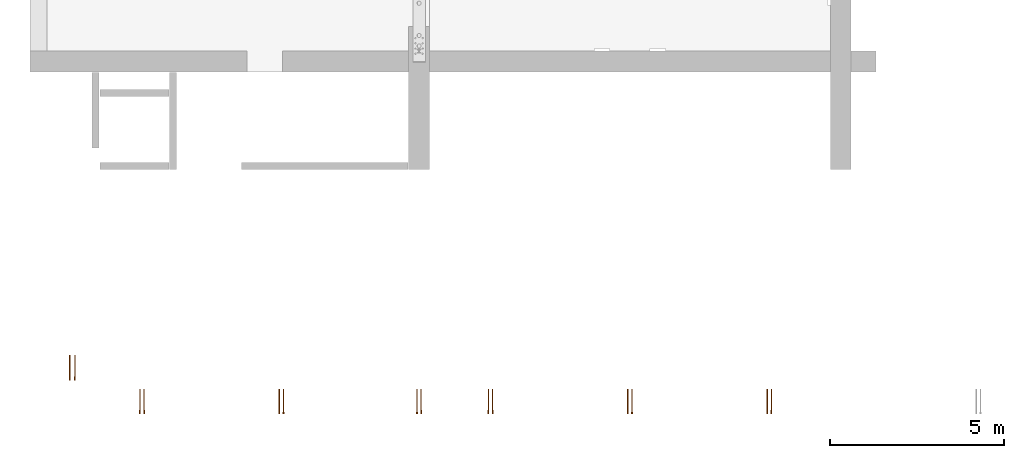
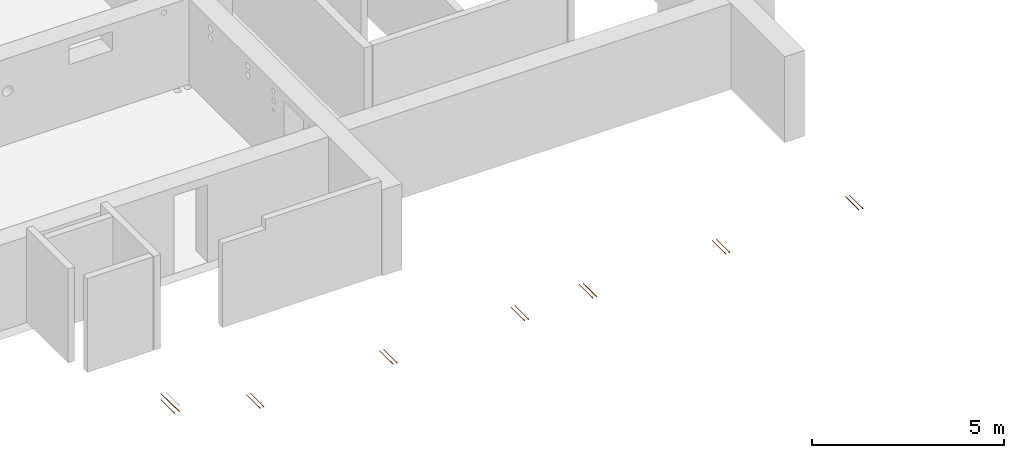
# One storey, part 7 of 8: 15 proxies.
"""IFC2X3 building model written with IfcOpenShell, lengths in millimetres."""

from ifc_helpers import new_model, entity, si_unit, converted_unit, derived_unit, direction, frame, frame_2d, origin, place, context, subcontext, project, spatial, circle, extrude, faceted_brep, source, transform, mapped, type_object, type_shapes, element, save


model = new_model("IFC2X3")

# Units and contexts
model_context = context("Model", 3, precision=0.01, world=origin(), true_north=direction((6.12303176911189e-17, 1.0)))
body_context = subcontext(model_context, "Body", "Model", "MODEL_VIEW")
ifc_project = project(units=[si_unit("LENGTHUNIT", "METRE", prefix="MILLI"), si_unit("AREAUNIT", "SQUARE_METRE"), si_unit("VOLUMEUNIT", "CUBIC_METRE"), converted_unit("PLANEANGLEUNIT", "DEGREE", entity("IfcRatioMeasure", 0.0174532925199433), si_unit("PLANEANGLEUNIT", "RADIAN"), dimensions=[0, 0, 0, 0, 0, 0, 0]), si_unit("MASSUNIT", "GRAM", prefix="KILO"), derived_unit("MASSDENSITYUNIT", [(si_unit("MASSUNIT", "GRAM", prefix="KILO"), 1), (si_unit("LENGTHUNIT", "METRE"), -3)]), si_unit("TIMEUNIT", "SECOND"), si_unit("FREQUENCYUNIT", "HERTZ"), si_unit("THERMODYNAMICTEMPERATUREUNIT", "DEGREE_CELSIUS"), derived_unit("THERMALTRANSMITTANCEUNIT", [(si_unit("MASSUNIT", "GRAM", prefix="KILO"), 1), (si_unit("THERMODYNAMICTEMPERATUREUNIT", "KELVIN"), -1), (si_unit("TIMEUNIT", "SECOND"), -3)]), derived_unit("VOLUMETRICFLOWRATEUNIT", [(si_unit("LENGTHUNIT", "METRE"), 3), (si_unit("TIMEUNIT", "SECOND"), -1)]), si_unit("ELECTRICCURRENTUNIT", "AMPERE"), si_unit("ELECTRICVOLTAGEUNIT", "VOLT"), si_unit("POWERUNIT", "WATT"), si_unit("FORCEUNIT", "NEWTON", prefix="KILO"), si_unit("ILLUMINANCEUNIT", "LUX"), si_unit("LUMINOUSFLUXUNIT", "LUMEN"), si_unit("LUMINOUSINTENSITYUNIT", "CANDELA"), derived_unit("USERDEFINED", [(si_unit("MASSUNIT", "GRAM", prefix="KILO"), -1), (si_unit("LENGTHUNIT", "METRE"), -2), (si_unit("TIMEUNIT", "SECOND"), 3), (si_unit("LUMINOUSFLUXUNIT", "LUMEN"), 1)]), derived_unit("LINEARVELOCITYUNIT", [(si_unit("LENGTHUNIT", "METRE"), 1), (si_unit("TIMEUNIT", "SECOND"), -1)]), si_unit("PRESSUREUNIT", "PASCAL"), derived_unit("USERDEFINED", [(si_unit("LENGTHUNIT", "METRE"), -2), (si_unit("MASSUNIT", "GRAM", prefix="KILO"), 1), (si_unit("TIMEUNIT", "SECOND"), -2)])], contexts=[model_context])

# Site, building, storey
site_placement = place(None, origin())
site = spatial("IfcSite", under=ifc_project, at=site_placement, Name="Default", CompositionType="ELEMENT")
building_placement = place(site_placement, origin())
building = spatial("IfcBuilding", under=site, at=building_placement, Name="niet gebruiken", CompositionType="ELEMENT")
storey_placement = place(building_placement, frame((0.0, 0.0, 3000.0)))
storey = spatial("IfcBuildingStorey", under=building, at=storey_placement, Name="00a eerste tussenverdieping", CompositionType="ELEMENT", Elevation=3000.00000000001)

# Proxies
building_element_proxy_type_1 = type_object("IfcBuildingElementProxyType", Name="Ø20/M24x705", PredefinedType="NOTDEFINED")
shared_shape_1 = source(origin(), body_context, "Body", "SolidModel", [
    extrude(circle(Radius=10.0, at=frame_2d((0.0, -1.61554457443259e-14), x_axis=(1.0, 0.0))), frame((34.9769027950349, 0.0, -705.0)), (0.0, 0.0, 1.0), 615.0),
    extrude(circle(Radius=10.0, at=frame_2d((0.0, -1.61554457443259e-14), x_axis=(1.0, 0.0))), frame((34.9769027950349, 0.0, -705.0)), (0.0, 0.0, 1.0), 615.0),
    faceted_brep([(29.3200485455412, 13.6568542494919, 0.0), (32.1484756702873, 14.8284271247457, 0.0), (34.9769027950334, 16.0, 0.0), (34.9769027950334, 16.0, -38.0), (32.1484756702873, 14.8284271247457, -38.0), (29.3200485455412, 13.6568542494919, -38.0), (26.4916214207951, 12.4852813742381, -38.0), (23.663194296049, 11.3137084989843, -38.0), (23.663194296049, 11.3137084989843, 0.0), (26.4916214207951, 12.4852813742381, 0.0), (49.805329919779, 2.82842712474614, 0.0), (50.9769027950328, 0.0, 0.0), (50.9769027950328, 0.0, -38.0), (50.0199937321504, 2.31018283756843, -38.0), (49.7680552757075, 2.91841607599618, -38.0), (48.6337570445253, 5.65685424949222, -38.0), (48.5592077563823, 5.83683215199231, -38.0), (47.4621841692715, 8.48528137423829, -38.0), (46.2906112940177, 11.3137084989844, -38.0), (46.2906112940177, 11.3137084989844, 0.0), (47.4621841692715, 8.48528137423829, 0.0), (48.6337570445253, 5.65685424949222, 0.0), (21.3200485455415, 5.65685424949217, 0.0), (22.4916214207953, 8.48528137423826, 0.0), (22.4916214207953, 8.48528137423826, -38.0), (22.2769576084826, 7.96703708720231, -38.0), (21.3200485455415, 5.65685424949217, -38.0), (20.8907209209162, 4.62036567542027, -38.0), (20.1484756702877, 2.82842712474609, -38.0), (18.976902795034, 0.0, -38.0), (18.976902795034, 0.0, 0.0), (20.1484756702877, 2.82842712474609, 0.0), (40.6337570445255, 13.6568542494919, 0.0), (43.4621841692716, 12.4852813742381, 0.0), (43.4621841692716, 12.4852813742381, -38.0), (40.6337570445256, 13.6568542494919, -38.0), (37.8053299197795, 14.8284271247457, -38.0), (37.8053299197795, 14.8284271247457, 0.0), (49.063084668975, -4.62036567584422, 0.0), (47.6768479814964, -7.96703708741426, 0.0), (46.2906112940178, -11.3137084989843, 0.0), (46.2906112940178, -11.3137084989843, -38.0), (47.4621841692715, -8.48528137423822, -38.0), (48.6337570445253, -5.65685424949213, -38.0), (49.8053299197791, -2.82842712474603, -38.0), (29.3200485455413, -13.6568542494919, 0.0), (26.4916214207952, -12.4852813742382, 0.0), (23.6631942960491, -11.3137084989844, 0.0), (23.6631942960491, -11.3137084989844, -38.0), (26.4916214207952, -12.4852813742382, -38.0), (29.3200485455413, -13.6568542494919, -38.0), (32.1484756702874, -14.8284271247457, -38.0), (34.9769027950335, -16.0, -38.0), (34.9769027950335, -16.0, 0.0), (32.1484756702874, -14.8284271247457, 0.0), (37.8053299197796, -14.8284271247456, -38.0), (40.6337570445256, -13.6568542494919, -38.0), (43.4621841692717, -12.4852813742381, -38.0), (43.4621841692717, -12.4852813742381, 0.0), (40.6337570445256, -13.6568542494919, 0.0), (37.8053299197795, -14.8284271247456, 0.0), (22.4916214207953, -8.48528137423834, 0.0), (21.3200485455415, -5.65685424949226, 0.0), (20.1484756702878, -2.82842712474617, 0.0), (19.9338118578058, -2.31018283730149, -38.0), (20.1857498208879, -2.91841488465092, -38.0), (21.3200485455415, -5.65685424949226, -38.0), (22.4916214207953, -8.48528137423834, -38.0), (25.7845146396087, 9.19238815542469, -52.0), (24.8628969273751, 6.96740617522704, -52.0), (23.9412792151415, 4.7424241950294, -52.0), (22.9590910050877, 2.3712120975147, -52.0), (21.976902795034, 0.0, -52.0), (44.1692909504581, 9.19238815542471, -52.0), (47.9769027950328, 0.0, -52.0), (46.994714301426, 2.37121278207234, -52.0), (46.0730968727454, 4.59619407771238, -52.0), (45.1211939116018, 6.89429111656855, -52.0), (34.9769027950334, 13.0, -52.0), (32.6788057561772, 12.0480970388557, -52.0), (30.380708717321, 11.096194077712, -52.0), (28.0826116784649, 10.1442911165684, -52.0), (37.2749998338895, 12.0480970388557, -52.0), (41.8711939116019, 10.1442911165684, -52.0), (39.5730968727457, 11.0961940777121, -52.0), (44.1692909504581, -9.19238815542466, -52.0), (45.0909086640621, -6.96740617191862, -52.0), (45.3722781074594, -6.28812024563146, -52.0), (46.0125263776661, -4.74242418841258, -52.0), (46.5752652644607, -3.38385233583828, -52.0), (46.9947145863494, -2.37121209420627, -52.0), (28.0826116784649, -10.1442911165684, -52.0), (30.3807087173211, -11.0961940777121, -52.0), (32.6788057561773, -12.0480970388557, -52.0), (34.9769027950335, -13.0, -52.0), (25.7845146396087, -9.19238815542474, -52.0), (37.2749998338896, -12.0480970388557, -52.0), (39.5730968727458, -11.096194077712, -52.0), (41.871193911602, -10.1442911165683, -52.0), (22.9288057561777, -2.29809703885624, -52.0), (23.8807087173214, -4.59619407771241, -52.0), (24.8326116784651, -6.89429111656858, -52.0), (32.6788057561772, 12.0480970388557, -90.0), (30.380708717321, 11.096194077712, -90.0), (28.0826116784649, 10.1442911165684, -90.0), (25.7845146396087, 9.19238815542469, -90.0), (34.9769027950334, 13.0, -90.0), (47.9769027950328, 0.0, -90.0), (47.2760840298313, 1.691926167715, -90.0), (46.0730968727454, 4.59619407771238, -90.0), (45.1211939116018, 6.89429111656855, -90.0), (44.1692909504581, 9.19238815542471, -90.0), (23.3785403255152, 3.38385233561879, -90.0), (21.976902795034, 0.0, -90.0), (24.5815274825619, 6.28812024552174, -90.0), (41.8711939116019, 10.1442911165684, -90.0), (39.5730968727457, 11.0961940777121, -90.0), (37.2749998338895, 12.0480970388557, -90.0), (46.0730968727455, -4.5961940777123, -90.0), (47.0249998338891, -2.29809703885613, -90.0), (44.1692909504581, -9.19238815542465, -90.0), (45.1211939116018, -6.89429111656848, -90.0), (25.7845146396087, -9.19238815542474, -90.0), (28.0826116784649, -10.1442911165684, -90.0), (30.3807087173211, -11.0961940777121, -90.0), (32.6788057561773, -12.0480970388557, -90.0), (34.9769027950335, -13.0, -90.0), (37.2749998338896, -12.0480970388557, -90.0), (39.5730968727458, -11.096194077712, -90.0), (41.871193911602, -10.1442911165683, -90.0), (22.6777215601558, -1.6919261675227, -90.0), (23.8807087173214, -4.59619407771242, -90.0), (24.8326116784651, -6.89429111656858, -90.0), (34.9769027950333, 0.0, -90.0), (34.9769027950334, 0.0, -38.0), (47.9769027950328, 0.0, -38.0), (47.2760840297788, 1.69192616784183, -38.0), (46.0730968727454, 4.59619407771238, -38.0), (45.1211939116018, 6.89429111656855, -38.0), (44.1692909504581, 9.19238815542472, -38.0), (41.8711939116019, 10.1442911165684, -38.0), (39.5730968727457, 11.0961940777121, -38.0), (37.2749998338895, 12.0480970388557, -38.0), (34.9769027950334, 13.0, -38.0), (32.6788057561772, 12.0480970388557, -38.0), (30.380708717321, 11.096194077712, -38.0), (28.0826116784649, 10.1442911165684, -38.0), (25.7845146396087, 9.19238815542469, -38.0), (24.5815274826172, 6.28812024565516, -38.0), (23.3785403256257, 3.38385233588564, -38.0), (21.976902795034, 0.0, -38.0), (22.6777215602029, -1.69192616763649, -38.0), (47.0249998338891, -2.29809703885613, -38.0), (46.0730968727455, -4.59619407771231, -38.0), (45.1211939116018, -6.89429111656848, -38.0), (44.1692909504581, -9.19238815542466, -38.0), (41.871193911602, -10.1442911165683, -38.0), (39.5730968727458, -11.096194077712, -38.0), (37.2749998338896, -12.0480970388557, -38.0), (34.9769027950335, -13.0, -38.0), (23.8807087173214, -4.59619407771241, -38.0), (24.8326116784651, -6.89429111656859, -38.0), (25.7845146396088, -9.19238815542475, -38.0), (28.0826116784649, -10.1442911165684, -38.0), (30.3807087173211, -11.0961940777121, -38.0), (32.6788057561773, -12.0480970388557, -38.0), (32.6788057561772, 12.0480970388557, 0.0), (30.380708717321, 11.096194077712, 0.0), (28.0826116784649, 10.1442911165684, 0.0), (25.7845146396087, 9.19238815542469, 0.0), (34.9769027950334, 13.0, 0.0), (47.9769027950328, 0.0, 0.0), (47.0249998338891, 2.29809703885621, 0.0), (46.0730968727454, 4.59619407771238, 0.0), (45.1211939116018, 6.89429111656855, 0.0), (44.1692909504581, 9.19238815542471, 0.0), (24.832611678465, 6.89429111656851, 0.0), (23.8807087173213, 4.59619407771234, 0.0), (22.9288057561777, 2.29809703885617, 0.0), (21.976902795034, 0.0, 0.0), (37.2749998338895, 12.0480970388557, 0.0), (41.8711939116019, 10.1442911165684, 0.0), (39.5730968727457, 11.0961940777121, 0.0), (44.1692909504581, -9.19238815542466, 0.0), (45.3722781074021, -6.28812024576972, 0.0), (46.5752652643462, -3.38385233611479, 0.0), (32.6788057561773, -12.0480970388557, 0.0), (34.9769027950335, -13.0, 0.0), (25.7845146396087, -9.19238815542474, 0.0), (28.0826116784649, -10.1442911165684, 0.0), (30.3807087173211, -11.0961940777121, 0.0), (37.2749998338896, -12.0480970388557, 0.0), (39.5730968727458, -11.096194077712, 0.0), (41.871193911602, -10.1442911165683, 0.0), (22.9288057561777, -2.29809703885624, 0.0), (23.8807087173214, -4.59619407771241, 0.0), (24.8326116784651, -6.89429111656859, 0.0)], [[[0, 1, 2, 3, 4, 5, 6, 7, 8, 9]], [[10, 11, 12, 13, 14, 15, 16, 17, 18, 19, 20, 21]], [[22, 23, 8, 7, 24, 25, 26, 27, 28, 29, 30, 31]], [[32, 33, 19, 18, 34, 35, 36, 3, 2, 37]], [[38, 39, 40, 41, 42, 43, 44, 12, 11]], [[45, 46, 47, 48, 49, 50, 51, 52, 53, 54]], [[53, 52, 55, 56, 57, 41, 40, 58, 59, 60]], [[48, 47, 61, 62, 63, 30, 29, 64, 65, 66, 67]], [[7, 68, 69, 70, 71, 72, 29, 28, 27, 26, 25, 24]], [[73, 18, 17, 16, 15, 14, 13, 12, 74, 75, 76, 77]], [[4, 3, 78, 79, 80, 81, 68, 7, 6, 5]], [[82, 78, 3, 36, 35, 34, 18, 73, 83, 84]], [[41, 85, 86, 87, 88, 89, 90, 74, 12, 44, 43, 42]], [[91, 92, 93, 94, 52, 51, 50, 49, 48, 95]], [[55, 52, 94, 96, 97, 98, 85, 41, 57, 56]], [[99, 100, 101, 95, 48, 67, 66, 65, 64, 29, 72]], [[102, 103, 104, 105, 68, 81, 80, 79, 78, 106]], [[75, 74, 107, 108, 109, 110, 111, 73, 77, 76]], [[112, 113, 72, 71, 70, 69, 68, 105, 114]], [[84, 83, 73, 111, 115, 116, 117, 106, 78, 82]], [[118, 119, 107, 74, 90, 89, 88, 87, 86, 85, 120, 121]], [[92, 91, 95, 122, 123, 124, 125, 126, 94, 93]], [[94, 126, 127, 128, 129, 120, 85, 98, 97, 96]], [[122, 95, 101, 100, 99, 72, 113, 130, 131, 132]], [[133, 111, 110]], [[133, 110, 109]], [[133, 109, 108]], [[133, 108, 107]], [[133, 107, 119]], [[133, 115, 111]], [[133, 116, 115]], [[133, 117, 116]], [[133, 106, 117]], [[133, 102, 106]], [[133, 103, 102]], [[133, 104, 103]], [[133, 105, 104]], [[133, 114, 105]], [[133, 112, 114]], [[133, 113, 112]], [[133, 119, 118]], [[133, 118, 121]], [[133, 121, 120]], [[133, 120, 129]], [[133, 129, 128]], [[133, 128, 127]], [[133, 127, 126]], [[133, 126, 125]], [[133, 130, 113]], [[133, 131, 130]], [[133, 132, 131]], [[133, 122, 132]], [[133, 125, 124]], [[133, 124, 123]], [[133, 123, 122]], [[134, 135, 136]], [[134, 136, 137]], [[134, 137, 138]], [[134, 138, 139]], [[134, 139, 140]], [[134, 140, 141]], [[134, 141, 142]], [[134, 142, 143]], [[134, 143, 144]], [[134, 144, 145]], [[134, 145, 146]], [[134, 146, 147]], [[134, 147, 148]], [[134, 148, 149]], [[134, 149, 150]], [[134, 150, 151]], [[134, 152, 135]], [[134, 153, 152]], [[134, 154, 153]], [[134, 155, 154]], [[134, 156, 155]], [[134, 157, 156]], [[134, 158, 157]], [[134, 159, 158]], [[134, 151, 160]], [[134, 160, 161]], [[134, 161, 162]], [[134, 162, 163]], [[134, 163, 164]], [[134, 164, 165]], [[134, 165, 159]], [[166, 167, 168, 169, 147, 146, 145, 144, 143, 170]], [[136, 135, 171, 172, 173, 174, 175, 139, 138, 137]], [[148, 147, 169, 176, 177, 178, 179, 150, 149]], [[180, 170, 143, 142, 141, 140, 139, 175, 181, 182]], [[153, 154, 155, 183, 184, 185, 171, 135, 152]], [[186, 187, 159, 165, 164, 163, 162, 188, 189, 190]], [[158, 159, 187, 191, 192, 193, 183, 155, 156, 157]], [[161, 160, 151, 150, 179, 194, 195, 196, 188, 162]], [[171, 11, 10]], [[171, 10, 21]], [[171, 21, 20]], [[171, 20, 19]], [[19, 172, 171]], [[171, 38, 11]], [[171, 39, 38]], [[171, 40, 39]], [[40, 171, 185]], [[40, 185, 184]], [[40, 184, 183]], [[183, 58, 40]], [[183, 59, 58]], [[183, 60, 59]], [[183, 53, 60]], [[53, 183, 193]], [[53, 193, 192]], [[53, 192, 191]], [[53, 191, 187]], [[53, 187, 186]], [[53, 186, 190]], [[53, 190, 189]], [[53, 189, 188]], [[188, 54, 53]], [[188, 45, 54]], [[188, 46, 45]], [[188, 47, 46]], [[47, 188, 196]], [[47, 196, 195]], [[47, 195, 194]], [[47, 194, 179]], [[179, 61, 47]], [[179, 62, 61]], [[179, 63, 62]], [[179, 30, 63]], [[179, 31, 30]], [[179, 22, 31]], [[179, 23, 22]], [[179, 8, 23]], [[8, 179, 178]], [[8, 178, 177]], [[8, 177, 176]], [[8, 176, 169]], [[169, 9, 8]], [[169, 0, 9]], [[169, 1, 0]], [[169, 2, 1]], [[2, 169, 168]], [[2, 168, 167]], [[2, 167, 166]], [[2, 166, 170]], [[2, 170, 180]], [[2, 180, 182]], [[2, 182, 181]], [[2, 181, 175]], [[175, 19, 33]], [[19, 175, 174]], [[175, 33, 32]], [[175, 32, 37]], [[175, 37, 2]], [[19, 174, 173]], [[19, 173, 172]]]),
])
type_shapes(building_element_proxy_type_1, [shared_shape_1])
for number, where, z_axis, x_axis in (
    (1, (145775.023097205, 150.0, 2655.0), (0.0, -1.0, 0.0), (1.0, 0.0, 0.0)),
    (2, (141775.023097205, 150.0, 2655.0), (0.0, -1.0, 0.0), (1.0, 0.0, 0.0)),
    (3, (137775.023097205, 150.0, 2655.0), (0.0, -1.0, 0.0), (1.0, 0.0, 0.0)),
    (4, (135725.023097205, 150.0, 2655.0), (0.0, -1.0, 0.0), (1.0, 0.0, 0.0)),
    (5, (131775.023097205, 150.0, 2655.0), (0.0, -1.0, 0.0), (1.0, 0.0, 0.0)),
    (6, (127775.023097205, 150.0, 2655.0), (0.0, -1.0, 0.0), (1.0, 0.0, 0.0)),
    (7, (125790.023097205, 1114.0, 2620.0), (0.0, -1.0, 0.0), (1.0, 0.0, 0.0)),
):
    element("IfcBuildingElementProxy", number, at=place(storey_placement, frame(where, z_axis=z_axis, x_axis=x_axis)), inside=storey, type_object=building_element_proxy_type_1, Name="GM_Stekanker_DEMU_4010 GV:Ø20/M24x705", ObjectType="Ø20/M24x705", context=body_context, shape_type="MappedRepresentation", body=[
        mapped(shared_shape_1, transform((0.0, 0.0, 0.0), scale=1.0)),
    ])
building_element_proxy_type_2 = type_object("IfcBuildingElementProxyType", Name="Ø20/M24x705", PredefinedType="NOTDEFINED")
shared_shape_2 = source(origin(), body_context, "Body", "SolidModel", [
    extrude(circle(Radius=10.0, at=frame_2d((0.0, -4.50212443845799e-14), x_axis=(1.0, 0.0))), frame((34.9769027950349, 0.0, -705.0)), (0.0, 0.0, 1.0), 615.0),
    extrude(circle(Radius=10.0, at=frame_2d((0.0, -4.50212443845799e-14), x_axis=(1.0, 0.0))), frame((34.9769027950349, 0.0, -705.0)), (0.0, 0.0, 1.0), 615.0),
    faceted_brep([(26.4916214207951, -12.4852813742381, 0.0), (23.663194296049, -11.3137084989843, 0.0), (23.663194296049, -11.3137084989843, -38.0), (26.4916214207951, -12.4852813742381, -38.0), (29.3200485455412, -13.6568542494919, -38.0), (32.1484756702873, -14.8284271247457, -38.0), (34.9769027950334, -16.0, -38.0), (34.9769027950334, -16.0, 0.0), (32.1484756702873, -14.8284271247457, 0.0), (29.3200485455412, -13.6568542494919, 0.0), (50.0199937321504, -2.31018283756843, -38.0), (50.9769027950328, 0.0, -38.0), (50.9769027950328, 0.0, 0.0), (49.805329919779, -2.82842712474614, 0.0), (48.6337570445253, -5.65685424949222, 0.0), (47.4621841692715, -8.48528137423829, 0.0), (46.2906112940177, -11.3137084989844, 0.0), (46.2906112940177, -11.3137084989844, -38.0), (47.4621841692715, -8.48528137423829, -38.0), (48.5592077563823, -5.83683215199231, -38.0), (48.6337570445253, -5.65685424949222, -38.0), (49.7680552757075, -2.91841607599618, -38.0), (21.3200485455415, -5.65685424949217, 0.0), (20.1484756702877, -2.82842712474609, 0.0), (18.976902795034, 0.0, 0.0), (18.976902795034, 0.0, -38.0), (20.1484756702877, -2.82842712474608, -38.0), (20.8907209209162, -4.62036567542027, -38.0), (21.3200485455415, -5.65685424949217, -38.0), (22.2769576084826, -7.9670370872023, -38.0), (22.4916214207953, -8.48528137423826, -38.0), (22.4916214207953, -8.48528137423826, 0.0), (37.8053299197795, -14.8284271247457, 0.0), (37.8053299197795, -14.8284271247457, -38.0), (40.6337570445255, -13.6568542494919, -38.0), (43.4621841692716, -12.4852813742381, -38.0), (43.4621841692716, -12.4852813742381, 0.0), (40.6337570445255, -13.6568542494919, 0.0), (48.6337570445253, 5.65685424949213, -38.0), (47.4621841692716, 8.48528137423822, -38.0), (46.2906112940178, 11.3137084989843, -38.0), (46.2906112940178, 11.3137084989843, 0.0), (47.6768479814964, 7.96703708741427, 0.0), (49.063084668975, 4.62036567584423, 0.0), (49.8053299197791, 2.82842712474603, -38.0), (32.1484756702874, 14.8284271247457, 0.0), (34.9769027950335, 16.0, 0.0), (34.9769027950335, 16.0, -38.0), (32.1484756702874, 14.8284271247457, -38.0), (29.3200485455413, 13.6568542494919, -38.0), (26.4916214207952, 12.4852813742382, -38.0), (23.6631942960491, 11.3137084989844, -38.0), (23.6631942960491, 11.3137084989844, 0.0), (26.4916214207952, 12.4852813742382, 0.0), (29.3200485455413, 13.6568542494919, 0.0), (37.8053299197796, 14.8284271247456, -38.0), (37.8053299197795, 14.8284271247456, 0.0), (40.6337570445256, 13.6568542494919, 0.0), (43.4621841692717, 12.4852813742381, 0.0), (43.4621841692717, 12.4852813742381, -38.0), (40.6337570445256, 13.6568542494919, -38.0), (22.4916214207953, 8.48528137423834, -38.0), (21.3200485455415, 5.65685424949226, -38.0), (20.1857498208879, 2.91841488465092, -38.0), (19.9338118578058, 2.31018283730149, -38.0), (20.1484756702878, 2.82842712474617, 0.0), (21.3200485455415, 5.65685424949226, 0.0), (22.4916214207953, 8.48528137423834, 0.0), (24.8628969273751, -6.96740617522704, -52.0), (25.7845146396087, -9.19238815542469, -52.0), (21.976902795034, 0.0, -52.0), (22.9590910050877, -2.3712120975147, -52.0), (23.9412792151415, -4.7424241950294, -52.0), (45.1211939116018, -6.89429111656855, -52.0), (46.0730968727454, -4.59619407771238, -52.0), (46.994714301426, -2.37121278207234, -52.0), (47.9769027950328, 0.0, -52.0), (44.1692909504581, -9.19238815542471, -52.0), (34.9769027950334, -13.0, -52.0), (28.0826116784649, -10.1442911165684, -52.0), (30.380708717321, -11.096194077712, -52.0), (32.6788057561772, -12.0480970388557, -52.0), (37.2749998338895, -12.0480970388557, -52.0), (39.5730968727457, -11.0961940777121, -52.0), (41.8711939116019, -10.1442911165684, -52.0), (45.0909086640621, 6.96740617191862, -52.0), (44.1692909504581, 9.19238815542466, -52.0), (46.9947145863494, 2.37121209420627, -52.0), (46.5752652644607, 3.38385233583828, -52.0), (46.0125263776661, 4.74242418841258, -52.0), (45.3722781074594, 6.28812024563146, -52.0), (34.9769027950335, 13.0, -52.0), (32.6788057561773, 12.0480970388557, -52.0), (30.3807087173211, 11.0961940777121, -52.0), (28.0826116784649, 10.1442911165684, -52.0), (25.7845146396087, 9.19238815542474, -52.0), (41.871193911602, 10.1442911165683, -52.0), (39.5730968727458, 11.096194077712, -52.0), (37.2749998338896, 12.0480970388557, -52.0), (22.9288057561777, 2.29809703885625, -52.0), (24.8326116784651, 6.89429111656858, -52.0), (23.8807087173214, 4.59619407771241, -52.0), (25.7845146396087, -9.19238815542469, -90.0), (28.0826116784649, -10.1442911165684, -90.0), (30.380708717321, -11.096194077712, -90.0), (32.6788057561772, -12.0480970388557, -90.0), (34.9769027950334, -13.0, -90.0), (47.2760840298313, -1.691926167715, -90.0), (47.9769027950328, 0.0, -90.0), (44.1692909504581, -9.19238815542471, -90.0), (45.1211939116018, -6.89429111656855, -90.0), (46.0730968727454, -4.59619407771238, -90.0), (24.5815274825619, -6.28812024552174, -90.0), (21.976902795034, 0.0, -90.0), (23.3785403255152, -3.38385233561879, -90.0), (37.2749998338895, -12.0480970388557, -90.0), (39.5730968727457, -11.0961940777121, -90.0), (41.8711939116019, -10.1442911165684, -90.0), (46.0730968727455, 4.5961940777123, -90.0), (45.1211939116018, 6.89429111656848, -90.0), (44.1692909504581, 9.19238815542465, -90.0), (47.0249998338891, 2.29809703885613, -90.0), (34.9769027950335, 13.0, -90.0), (32.6788057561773, 12.0480970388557, -90.0), (30.3807087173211, 11.0961940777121, -90.0), (28.0826116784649, 10.1442911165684, -90.0), (25.7845146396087, 9.19238815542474, -90.0), (37.2749998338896, 12.0480970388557, -90.0), (41.871193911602, 10.1442911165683, -90.0), (39.5730968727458, 11.096194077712, -90.0), (24.8326116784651, 6.89429111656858, -90.0), (23.8807087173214, 4.59619407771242, -90.0), (22.6777215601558, 1.6919261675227, -90.0), (34.9769027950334, 0.0, -90.0), (34.9769027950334, 0.0, -38.0), (44.1692909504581, -9.19238815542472, -38.0), (45.1211939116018, -6.89429111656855, -38.0), (46.0730968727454, -4.59619407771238, -38.0), (47.2760840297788, -1.69192616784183, -38.0), (47.9769027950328, 0.0, -38.0), (47.0249998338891, 2.29809703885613, -38.0), (41.8711939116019, -10.1442911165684, -38.0), (39.5730968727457, -11.0961940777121, -38.0), (37.2749998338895, -12.0480970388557, -38.0), (34.9769027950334, -13.0, -38.0), (32.6788057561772, -12.0480970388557, -38.0), (30.380708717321, -11.096194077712, -38.0), (28.0826116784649, -10.1442911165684, -38.0), (25.7845146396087, -9.19238815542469, -38.0), (24.5815274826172, -6.28812024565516, -38.0), (23.3785403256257, -3.38385233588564, -38.0), (21.976902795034, 0.0, -38.0), (46.0730968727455, 4.59619407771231, -38.0), (45.1211939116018, 6.89429111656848, -38.0), (44.1692909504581, 9.19238815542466, -38.0), (41.871193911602, 10.1442911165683, -38.0), (39.5730968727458, 11.096194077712, -38.0), (37.2749998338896, 12.0480970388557, -38.0), (34.9769027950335, 13.0, -38.0), (32.6788057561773, 12.0480970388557, -38.0), (22.6777215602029, 1.69192616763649, -38.0), (23.8807087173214, 4.59619407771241, -38.0), (24.8326116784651, 6.89429111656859, -38.0), (25.7845146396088, 9.19238815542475, -38.0), (30.3807087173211, 11.0961940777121, -38.0), (28.0826116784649, 10.1442911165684, -38.0), (25.7845146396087, -9.19238815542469, 0.0), (28.0826116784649, -10.1442911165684, 0.0), (30.380708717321, -11.096194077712, 0.0), (32.6788057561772, -12.0480970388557, 0.0), (34.9769027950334, -13.0, 0.0), (47.0249998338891, -2.29809703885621, 0.0), (47.9769027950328, 0.0, 0.0), (44.1692909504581, -9.19238815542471, 0.0), (45.1211939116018, -6.89429111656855, 0.0), (46.0730968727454, -4.59619407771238, 0.0), (21.976902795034, 0.0, 0.0), (22.9288057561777, -2.29809703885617, 0.0), (23.8807087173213, -4.59619407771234, 0.0), (24.832611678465, -6.89429111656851, 0.0), (39.5730968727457, -11.0961940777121, 0.0), (41.8711939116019, -10.1442911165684, 0.0), (37.2749998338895, -12.0480970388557, 0.0), (46.5752652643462, 3.38385233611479, 0.0), (45.3722781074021, 6.28812024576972, 0.0), (44.1692909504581, 9.19238815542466, 0.0), (30.3807087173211, 11.0961940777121, 0.0), (28.0826116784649, 10.1442911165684, 0.0), (25.7845146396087, 9.19238815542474, 0.0), (34.9769027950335, 13.0, 0.0), (32.6788057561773, 12.0480970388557, 0.0), (41.871193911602, 10.1442911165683, 0.0), (39.5730968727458, 11.096194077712, 0.0), (37.2749998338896, 12.0480970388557, 0.0), (24.8326116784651, 6.89429111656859, 0.0), (23.8807087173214, 4.59619407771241, 0.0), (22.9288057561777, 2.29809703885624, 0.0)], [[[0, 1, 2, 3, 4, 5, 6, 7, 8, 9]], [[10, 11, 12, 13, 14, 15, 16, 17, 18, 19, 20, 21]], [[22, 23, 24, 25, 26, 27, 28, 29, 30, 2, 1, 31]], [[32, 7, 6, 33, 34, 35, 17, 16, 36, 37]], [[38, 39, 40, 41, 42, 43, 12, 11, 44]], [[45, 46, 47, 48, 49, 50, 51, 52, 53, 54]], [[55, 47, 46, 56, 57, 58, 41, 40, 59, 60]], [[61, 62, 63, 64, 25, 24, 65, 66, 67, 52, 51]], [[68, 69, 2, 30, 29, 28, 27, 26, 25, 70, 71, 72]], [[73, 74, 75, 76, 11, 10, 21, 20, 19, 18, 17, 77]], [[78, 6, 5, 4, 3, 2, 69, 79, 80, 81]], [[33, 6, 78, 82, 83, 84, 77, 17, 35, 34]], [[85, 86, 40, 39, 38, 44, 11, 76, 87, 88, 89, 90]], [[49, 48, 47, 91, 92, 93, 94, 95, 51, 50]], [[91, 47, 55, 60, 59, 40, 86, 96, 97, 98]], [[99, 70, 25, 64, 63, 62, 61, 51, 95, 100, 101]], [[81, 80, 79, 69, 102, 103, 104, 105, 106, 78]], [[107, 108, 76, 75, 74, 73, 77, 109, 110, 111]], [[112, 102, 69, 68, 72, 71, 70, 113, 114]], [[82, 78, 106, 115, 116, 117, 109, 77, 84, 83]], [[118, 119, 120, 86, 85, 90, 89, 88, 87, 76, 108, 121]], [[92, 91, 122, 123, 124, 125, 126, 95, 94, 93]], [[127, 122, 91, 98, 97, 96, 86, 120, 128, 129]], [[130, 131, 132, 113, 70, 99, 101, 100, 95, 126]], [[133, 108, 107]], [[133, 107, 111]], [[133, 111, 110]], [[133, 110, 109]], [[133, 109, 117]], [[133, 117, 116]], [[133, 116, 115]], [[133, 115, 106]], [[133, 106, 105]], [[133, 105, 104]], [[133, 104, 103]], [[133, 103, 102]], [[133, 102, 112]], [[133, 112, 114]], [[133, 114, 113]], [[133, 113, 132]], [[133, 121, 108]], [[133, 118, 121]], [[133, 119, 118]], [[133, 120, 119]], [[133, 128, 120]], [[133, 129, 128]], [[133, 127, 129]], [[133, 122, 127]], [[133, 132, 131]], [[133, 131, 130]], [[133, 130, 126]], [[133, 126, 125]], [[133, 125, 124]], [[133, 124, 123]], [[133, 123, 122]], [[134, 135, 136]], [[134, 136, 137]], [[134, 137, 138]], [[134, 138, 139]], [[134, 139, 140]], [[134, 141, 135]], [[134, 142, 141]], [[134, 143, 142]], [[134, 144, 143]], [[134, 145, 144]], [[134, 146, 145]], [[134, 147, 146]], [[134, 148, 147]], [[134, 149, 148]], [[134, 150, 149]], [[134, 151, 150]], [[134, 140, 152]], [[134, 152, 153]], [[134, 153, 154]], [[134, 154, 155]], [[134, 155, 156]], [[134, 156, 157]], [[134, 157, 158]], [[134, 158, 159]], [[134, 160, 151]], [[134, 161, 160]], [[134, 162, 161]], [[134, 163, 162]], [[134, 159, 164]], [[134, 164, 165]], [[134, 165, 163]], [[145, 146, 147, 148, 166, 167, 168, 169, 170, 144]], [[171, 172, 139, 138, 137, 136, 135, 173, 174, 175]], [[150, 151, 176, 177, 178, 179, 166, 148, 149]], [[180, 181, 173, 135, 141, 142, 143, 144, 170, 182]], [[183, 184, 185, 154, 153, 152, 140, 139, 172]], [[186, 187, 188, 163, 165, 164, 159, 158, 189, 190]], [[189, 158, 157, 156, 155, 154, 185, 191, 192, 193]], [[163, 188, 194, 195, 196, 176, 151, 160, 161, 162]], [[172, 16, 15]], [[16, 172, 171]], [[172, 15, 14]], [[172, 14, 13]], [[172, 13, 12]], [[172, 12, 43]], [[172, 43, 42]], [[172, 42, 41]], [[41, 183, 172]], [[16, 171, 175]], [[16, 175, 174]], [[16, 174, 173]], [[173, 36, 16]], [[173, 37, 36]], [[173, 32, 37]], [[173, 7, 32]], [[7, 173, 181]], [[7, 181, 180]], [[7, 180, 182]], [[7, 182, 170]], [[7, 170, 169]], [[7, 169, 168]], [[7, 168, 167]], [[7, 167, 166]], [[166, 8, 7]], [[166, 9, 8]], [[166, 0, 9]], [[166, 1, 0]], [[1, 166, 179]], [[1, 179, 178]], [[1, 178, 177]], [[1, 177, 176]], [[176, 31, 1]], [[176, 22, 31]], [[176, 23, 22]], [[176, 24, 23]], [[176, 65, 24]], [[176, 66, 65]], [[176, 67, 66]], [[176, 52, 67]], [[52, 176, 196]], [[52, 196, 195]], [[52, 195, 194]], [[52, 194, 188]], [[188, 53, 52]], [[188, 54, 53]], [[188, 45, 54]], [[188, 46, 45]], [[46, 188, 187]], [[46, 187, 186]], [[46, 186, 190]], [[46, 190, 189]], [[46, 189, 193]], [[46, 193, 192]], [[46, 192, 191]], [[46, 191, 185]], [[185, 41, 58]], [[41, 185, 184]], [[185, 58, 57]], [[185, 57, 56]], [[185, 56, 46]], [[41, 184, 183]]]),
])
type_shapes(building_element_proxy_type_2, [shared_shape_2])
for number, where, z_axis, x_axis in (
    (8, (145724.976902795, 150.0, 2655.0), (0.0, -1.0, 0.0), (-1.0, 0.0, 0.0)),
    (9, (141724.976902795, 150.0, 2655.0), (0.0, -1.0, 0.0), (-1.0, 0.0, 0.0)),
    (10, (137724.976902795, 150.0, 2655.0), (0.0, -1.0, 0.0), (-1.0, 0.0, 0.0)),
    (11, (135674.976902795, 150.0, 2655.0), (0.0, -1.0, 0.0), (-1.0, 0.0, 0.0)),
    (12, (131724.976902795, 150.0, 2655.0), (0.0, -1.0, 0.0), (-1.0, 0.0, 0.0)),
    (13, (127724.976902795, 150.0, 2655.0), (0.0, -1.0, 0.0), (-1.0, 0.0, 0.0)),
    (14, (125709.976902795, 1114.0, 2810.0), (0.0, -1.0, 0.0), (-1.0, 0.0, 0.0)),
    (15, (125709.976902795, 1114.0, 2620.0), (0.0, -1.0, 0.0), (-1.0, 0.0, 0.0)),
):
    element("IfcBuildingElementProxy", number, at=place(storey_placement, frame(where, z_axis=z_axis, x_axis=x_axis)), inside=storey, type_object=building_element_proxy_type_2, Name="GM_Stekanker_DEMU_4010 GV:Ø20/M24x705", ObjectType="Ø20/M24x705", context=body_context, shape_type="MappedRepresentation", body=[
        mapped(shared_shape_2, transform((0.0, 0.0, 0.0), scale=1.0)),
    ])

save(model, "model.ifc")
